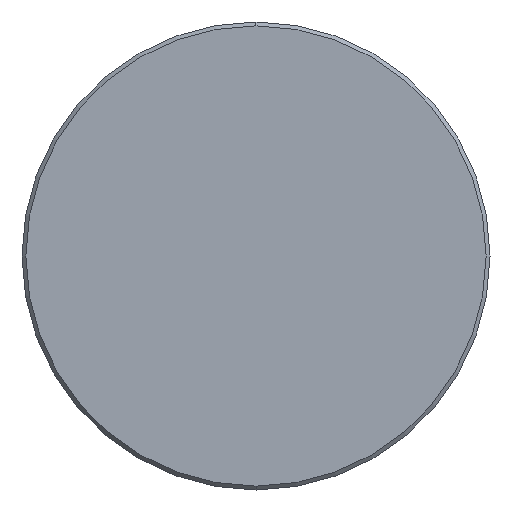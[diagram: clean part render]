
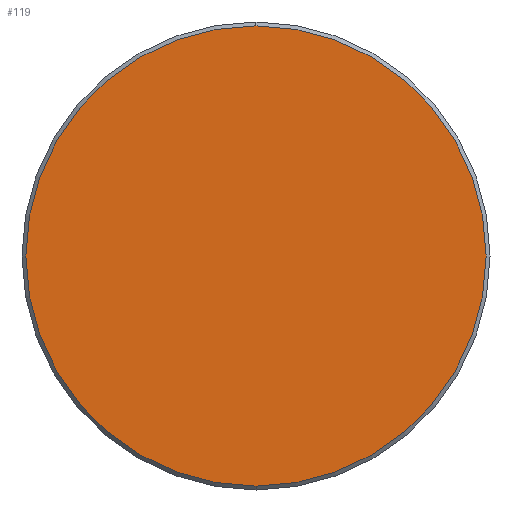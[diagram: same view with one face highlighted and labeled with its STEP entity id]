
A CAD part, left-side view. The second image highlights one B-rep face of the part: STEP entity #119.
In plain terms, the highlighted planar face has unit normal (-1, 0, 0).
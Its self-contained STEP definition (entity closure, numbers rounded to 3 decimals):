
#3 = AXIS2_PLACEMENT_3D ( 'NONE', #87, #44, #90 ) ;
#36 = VERTEX_POINT ( 'NONE', #268 ) ;
#39 = DIRECTION ( 'NONE',  ( -1., 0., 0. ) ) ;
#40 = CARTESIAN_POINT ( 'NONE',  ( 0., 0., 0. ) ) ;
#44 = DIRECTION ( 'NONE',  ( -1., 0., 0. ) ) ;
#68 = EDGE_CURVE ( 'NONE', #36, #289, #316, .T. ) ;
#87 = CARTESIAN_POINT ( 'NONE',  ( 0., 0., 0. ) ) ;
#90 = DIRECTION ( 'NONE',  ( 0., 0., 1. ) ) ;
#91 = CARTESIAN_POINT ( 'NONE',  ( 0., 0., -17.7 ) ) ;
#119 = ADVANCED_FACE ( 'NONE', ( #120 ), #196, .F. ) ;
#120 = FACE_OUTER_BOUND ( 'NONE', #363, .T. ) ;
#121 = CARTESIAN_POINT ( 'NONE',  ( 0., 0., 0. ) ) ;
#190 = CIRCLE ( 'NONE', #3, 17.7 ) ;
#196 = PLANE ( 'NONE',  #365 ) ;
#218 = AXIS2_PLACEMENT_3D ( 'NONE', #121, #39, #461 ) ;
#235 = DIRECTION ( 'NONE',  ( 1., 0., 0. ) ) ;
#252 = EDGE_CURVE ( 'NONE', #289, #36, #190, .T. ) ;
#268 = CARTESIAN_POINT ( 'NONE',  ( 0., 0., 17.7 ) ) ;
#289 = VERTEX_POINT ( 'NONE', #91 ) ;
#303 = ORIENTED_EDGE ( 'NONE', *, *, #68, .T. ) ;
#316 = CIRCLE ( 'NONE', #218, 17.7 ) ;
#321 = ORIENTED_EDGE ( 'NONE', *, *, #252, .T. ) ;
#363 = EDGE_LOOP ( 'NONE', ( #321, #303 ) ) ;
#365 = AXIS2_PLACEMENT_3D ( 'NONE', #40, #235, #460 ) ;
#460 = DIRECTION ( 'NONE',  ( 0., 0., -1. ) ) ;
#461 = DIRECTION ( 'NONE',  ( 0., 0., 1. ) ) ;
